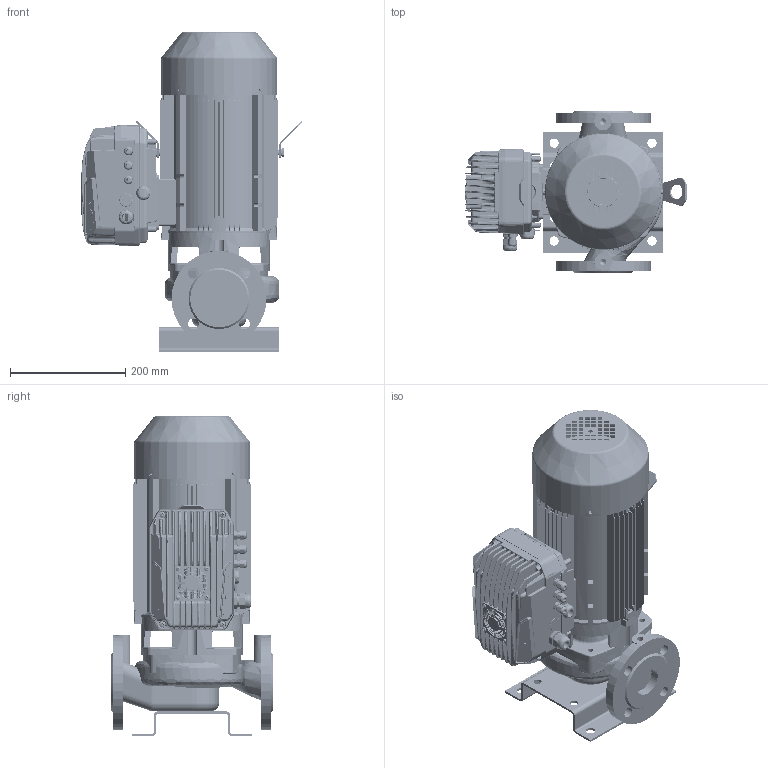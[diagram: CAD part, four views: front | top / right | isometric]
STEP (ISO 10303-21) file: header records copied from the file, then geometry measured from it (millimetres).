
FILE_DESCRIPTION(('STEP AP214'),'1');
FILE_NAME('export.stp','2022-08-29T11:27:12',(' '),(' '),'Spatial InterOp 3D',' ',' ');
FILE_SCHEMA(('AUTOMOTIVE_DESIGN { 1 0 10303 214 1 1 1 1 }'));
Length unit declared in the file: millimetre
Products named in the file (49): W_L50D2MDKP100; V_TLL50ABC; V_PPL50ABC; V_JALKA35973; V_AdapMida205_407; 210588; DIN_7985-M5X8; 160017; 160009; V_MKP-100_F16; 160141; 160137; 160138; 160139; 160140; Koura_Ale_M5; Plug_Blind_M20; Sealing_Plug_M20; DIN_7985-M5X12; 480041; 480040___; 480043; 480042___; 160134; DIN_EN_24017_-_M8_16-Stainless_S; 160136; MIDA_180deg; BASE_MIDA_NASTEC_89; 3005020100_AF0_157; PRT0001; PRT0002; PRT0003; PRT0005; PRT0006; PRT0007; V4-25--_-_U7687_PZ_AF0_5; V4-25--_-_U7687_PZ_AF1_5; V4-25--_-_U7687_PZ_AF2_5; V4-25--_-_U7687_PZ_AF3_5; V5-30--_-_U7687_PZ_AF0_5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
Assembly tree (54 placements, depth 4):
  W_L50D2MDKP100
    V_TLL50ABC
    V_PPL50ABC
    V_JALKA35973
    V_AdapMida205_407
      210588
      DIN_7985-M5X8  x2
    V_MKP-100_F16
      160017
        160009
      160141
        160137
        160138
        160139
        160140
        Koura_Ale_M5
        Plug_Blind_M20
        Sealing_Plug_M20
        DIN_7985-M5X8
        DIN_7985-M5X12  x4
      480041
        480040___
      480043
        480042___
      160134  x2
      DIN_EN_24017_-_M8_16-Stainless_S  x2
      160136
    Mida205
      MIDA_180deg
        BASE_MIDA_NASTEC_89
        3005020100_AF0_157
        PRT0001
        PRT0002
        PRT0003
        PRT0005
        PRT0006
        PRT0007
        V4-25--_-_U7687_PZ_AF0_5
        V4-25--_-_U7687_PZ_AF1_5
        V4-25--_-_U7687_PZ_AF2_5
        V4-25--_-_U7687_PZ_AF3_5
        V5-30--_-_U7687_PZ_AF0_5
        V5-30--_-_U7687_PZ_AF1_5
        V5-30--_-_U7687_PZ_AF2_5
        V5-30--_-_U7687_PZ_5
        2001300200_32
        TASTIERA_MIDA_2_44
        ETICHETTA_MIDA_9
        TAPPO_PRESSACAVO_M20_5
Bounding box: 384.12 x 280 x 556 mm (x, y, z)
Volume: 5131851.6 mm3; surface area: 1961135.5 mm2
Topology: 45 solids, 46 shells, 6158 faces, 15976 edges, 9941 vertices
Faces by surface type: plane 2303, cylinder 1930, bspline 1263, cone 428, torus 223, sphere 11
Entity records: 309309 total; most frequent: CARTESIAN_POINT 142677, ORIENTED_EDGE 31110, DIRECTION 22694, EDGE_CURVE 15559, VERTEX_POINT 9732, AXIS2_PLACEMENT_3D 8178, EDGE_LOOP 6532, LINE 6338
